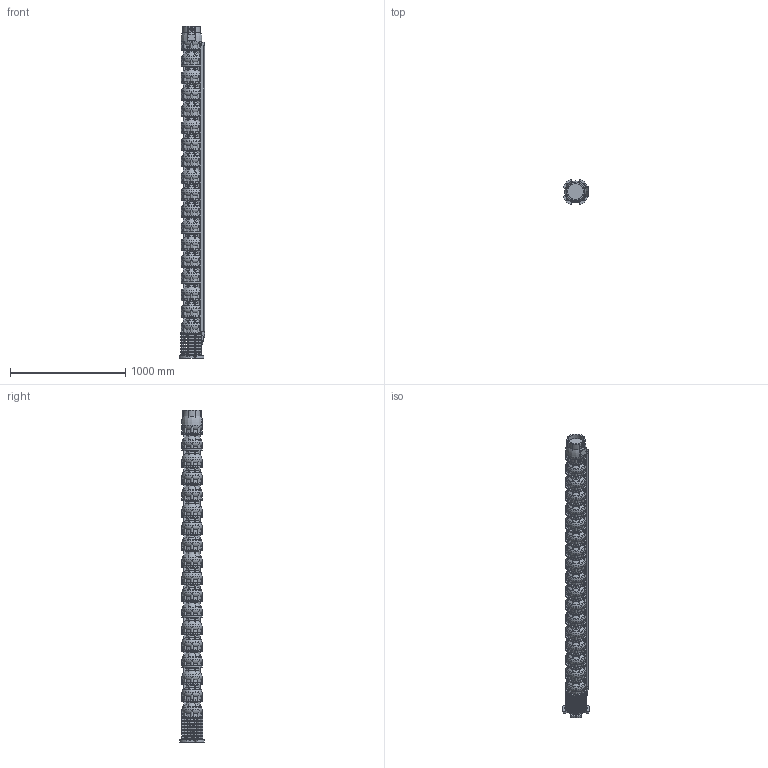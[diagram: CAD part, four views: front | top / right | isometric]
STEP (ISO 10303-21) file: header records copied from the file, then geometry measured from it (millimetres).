
FILE_DESCRIPTION(/* description */ ('Unknown'),/* implementation_level */ '2;1');
FILE_NAME(/* name */ 'VSI134-17_WR_M10-50_DME',/* time_stamp */ '2023-09-14T14:42:47+02:00',/* author */ ('Unknown'),/* organization */ ('Unknown'),/* preprocessor_version */ 'ST-DEVELOPER v18.102',/* originating_system */ 'Solid Edge',/* authorisation */ 'Unknown');
FILE_SCHEMA (('AUTOMOTIVE_DESIGN {1 0 10303 214 3 1 1}'));
Products named in the file (12): VSI134-17_WR_M10-50_DME; VSI134_testata; VSI134_diffusore; VSI134_supporto_8×8; VSI134_adattatore_8×10; VSI134_filtro_A; VSI134_filtro_B; VSI134_terminale_top_copricavo_medio; VSI134_terminale_bottom_copricavo_medio; MID 134-17; M5X8_UNI7687; VSI134_giunto_8×10
Assembly tree (36 placements, depth 2):
  VSI134-17_WR_M10-50_DME
    VSI134_testata
    VSI134_diffusore  x17
    VSI134_supporto_8×8
    VSI134_adattatore_8×10
    VSI134_filtro_A
    VSI134_filtro_B
    VSI134_terminale_top_copricavo_medio
    VSI134_terminale_bottom_copricavo_medio
    MID 134-17
    M5X8_UNI7687  x10
    VSI134_giunto_8×10
Bounding box: 221.78 x 213.16 x 2883 mm (x, y, z)
Volume: 53830277.4 mm3; surface area: 4112958.9 mm2
Topology: 75 solids, 77 shells, 5295 faces, 14909 edges, 9961 vertices
Faces by surface type: plane 3732, torus 785, cylinder 665, cone 70, bspline 31, sphere 12
Full cylindrical faces by diameter (mm): 2.4 x2, 3 x2, 4.2 x16, 5 x10, 5.5 x8, 14 x4, 16 x4, 17.5 x4, 26 x1, 30 x4, 44 x1, 65 x1, 69 x1, 74 x1, 84 x1, 98 x1, 127 x2, 135.472 x1, 157 x1, 182 x18
Entity records: 85371 total; most frequent: CARTESIAN_POINT 18301, ORIENTED_EDGE 13946, DIRECTION 13466, EDGE_CURVE 6973, VERTEX_POINT 4707, AXIS2_PLACEMENT_3D 4611, LINE 4244, VECTOR 4244
